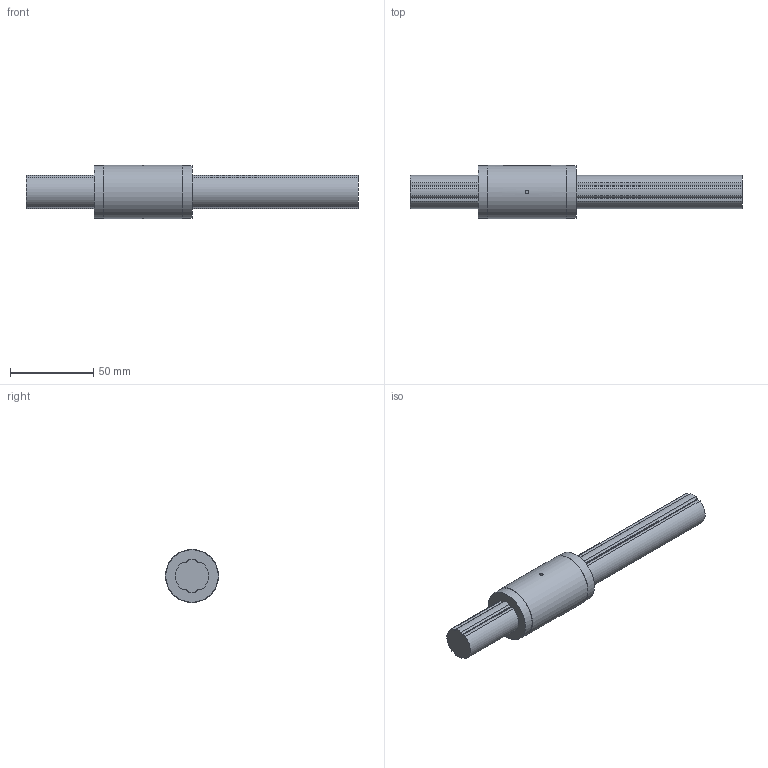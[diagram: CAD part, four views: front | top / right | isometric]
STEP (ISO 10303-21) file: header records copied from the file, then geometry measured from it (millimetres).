
FILE_DESCRIPTION(/* description */ ('STEP AP214'),/* implementation_level */ '2;1');
FILE_NAME(/* name */ 'LT20X+200L(00)',/* time_stamp */ '2024-09-05T14:16:19+02:00',/* author */ ('License CC BY-ND 4.0'),/* organization */ ('CADENAS'),/* preprocessor_version */ 'ST-DEVELOPER v19.3',/* originating_system */ 'PARTsolutions',/* authorisation */ ' ');
FILE_SCHEMA (('AUTOMOTIVE_DESIGN {1 0 10303 214 3 1 1}'));
Length unit declared in the file: millimetre
Products named in the file (3): LT20X+200L(00); 1LT20X 200Shaft; 1LT20X Cylindar
Assembly tree (2 placements, depth 2):
  LT20X+200L(00)
    1LT20X 200Shaft
    1LT20X Cylindar
Bounding box: 200 x 32 x 32 mm (x, y, z)
Volume: 89902.7 mm3; surface area: 24460.7 mm2
Topology: 2 solids, 2 shells, 64 faces, 173 edges, 115 vertices
Faces by surface type: cylinder 39, plane 25
Full cylindrical faces by diameter (mm): 2 x2, 31.6 x2, 32 x1
Entity records: 2129 total; most frequent: CARTESIAN_POINT 399, DIRECTION 366, ORIENTED_EDGE 332, EDGE_CURVE 166, AXIS2_PLACEMENT_3D 139, VERTEX_POINT 114, LINE 88, VECTOR 88
